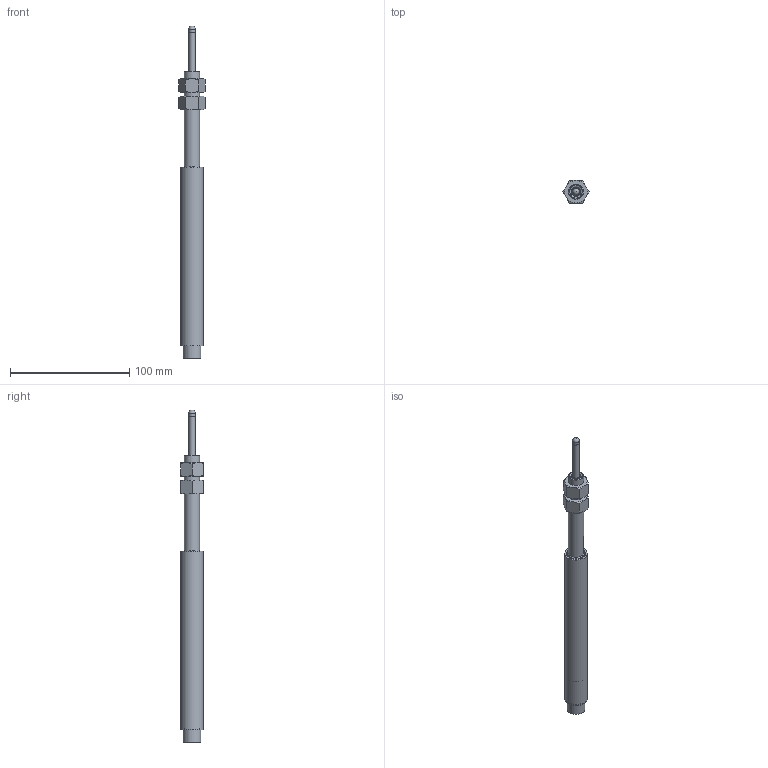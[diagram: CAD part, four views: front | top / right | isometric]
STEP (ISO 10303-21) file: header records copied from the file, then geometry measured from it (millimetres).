
FILE_DESCRIPTION(/* description */ (''),/* implementation_level */ '2;1');
FILE_NAME(/* name */ 'F:\GH SERIES\GH-750-A-XXXX\GH-750-A-500\GH-750-A-500 PACK N GO\GH-750-A-500 ASS''Y.iam.stp',/* time_stamp */ '2021-11-17T12:40:18-05:00',/* author */ ('Justin'),/* organization */ (''),/* preprocessor_version */ 'ST-DEVELOPER v18.1',/* originating_system */ 'Autodesk Inventor 2022',/* authorisation */ '');
FILE_SCHEMA (('AUTOMOTIVE_DESIGN { 1 0 10303 214 3 1 1 }'));
Length unit declared in the file: inch
Products named in the file (4): GH-750-A-500 ASS'Y; GH-750-A-500 SHAFT_SW; AS 2465 - 1/2  UNF; GH-750-A-500 Housing_SW
Assembly tree (4 placements, depth 2):
  GH-750-A-500 ASS'Y
    GH-750-A-500 SHAFT_SW
    AS 2465 - 1/2  UNF  x2
    GH-750-A-500 Housing_SW
Bounding box: 22 x 19.05 x 278.03 mm (x, y, z)
Volume: 29364.7 mm3; surface area: 31059 mm2
Topology: 12 solids, 12 shells, 172 faces, 343 edges, 216 vertices
Faces by surface type: plane 69, cylinder 53, cone 43, torus 4, bspline 2, sphere 1
Full cylindrical faces by diameter (mm): 0.762 x12, 2.845 x3, 4.826 x2, 5.334 x4, 5.397 x1, 7.671 x2, 7.874 x1, 11.328 x2, 12.7 x1, 13.208 x1, 14.986 x1, 15.748 x2, 16.51 x1, 17.069 x1, 18.034 x1, 18.415 x3, 19.05 x1
Entity records: 4461 total; most frequent: CARTESIAN_POINT 957, DIRECTION 733, ORIENTED_EDGE 582, AXIS2_PLACEMENT_3D 311, EDGE_CURVE 291, VERTEX_POINT 187, EDGE_LOOP 186, CIRCLE 156
